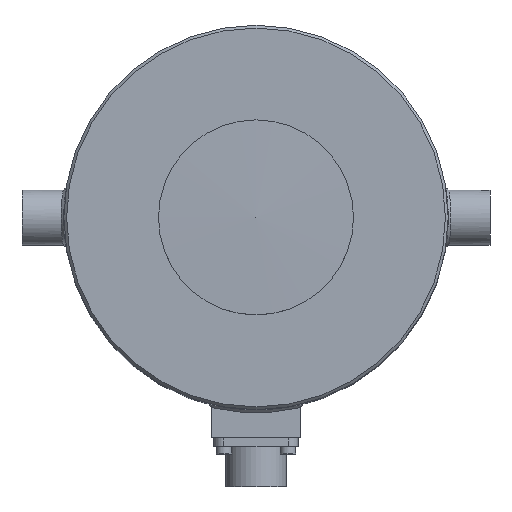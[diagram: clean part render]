
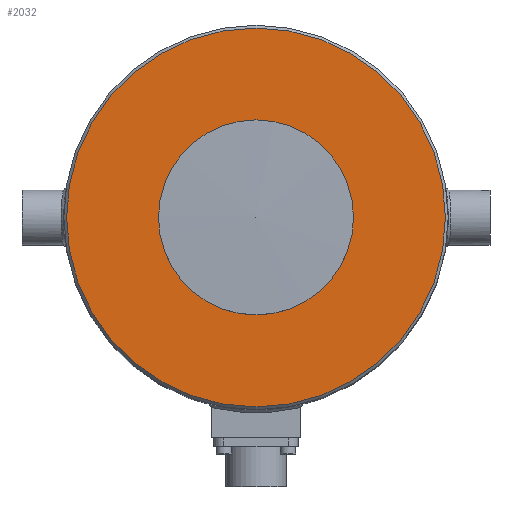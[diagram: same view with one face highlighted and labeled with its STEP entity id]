
A CAD part, top view. The second image highlights one B-rep face of the part: STEP entity #2032.
In plain terms, the highlighted planar face has unit normal (0, 0, 1).
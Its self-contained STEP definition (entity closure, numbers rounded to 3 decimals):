
#263=PLANE('',#2135);
#343=ORIENTED_EDGE('',*,*,#695,.F.);
#344=ORIENTED_EDGE('',*,*,#696,.T.);
#695=EDGE_CURVE('',#872,#872,#1006,.T.);
#696=EDGE_CURVE('',#873,#873,#1007,.F.);
#872=VERTEX_POINT('',#2668);
#873=VERTEX_POINT('',#2671);
#1006=CIRCLE('',#2134,35.);
#1007=CIRCLE('',#2136,68.);
#1061=EDGE_LOOP('',(#343));
#1062=EDGE_LOOP('',(#344));
#1207=FACE_BOUND('',#1061,.T.);
#1208=FACE_BOUND('',#1062,.T.);
#2032=ADVANCED_FACE('',(#1207,#1208),#263,.T.);
#2134=AXIS2_PLACEMENT_3D('',#2667,#2282,#2283);
#2135=AXIS2_PLACEMENT_3D('',#2669,#2284,#2285);
#2136=AXIS2_PLACEMENT_3D('',#2670,#2286,#2287);
#2282=DIRECTION('',(0.,0.,1.));
#2283=DIRECTION('',(1.,0.,0.));
#2284=DIRECTION('',(0.,0.,1.));
#2285=DIRECTION('',(1.,0.,0.));
#2286=DIRECTION('',(0.,0.,-1.));
#2287=DIRECTION('',(-1.,0.,0.));
#2667=CARTESIAN_POINT('',(0.,0.,75.));
#2668=CARTESIAN_POINT('',(35.,0.,75.));
#2669=CARTESIAN_POINT('',(35.,0.,75.));
#2670=CARTESIAN_POINT('',(0.,0.,75.));
#2671=CARTESIAN_POINT('',(-68.,0.,75.));
